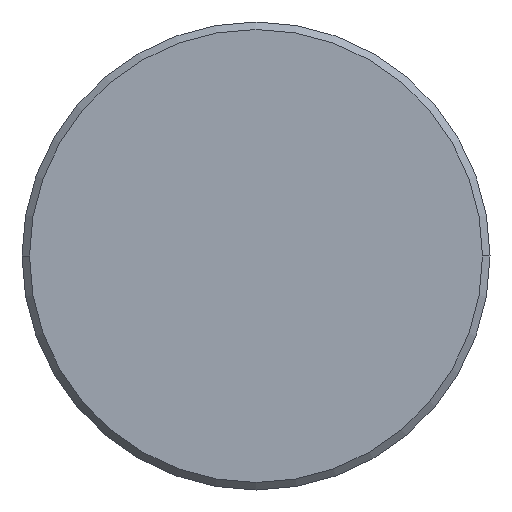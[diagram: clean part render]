
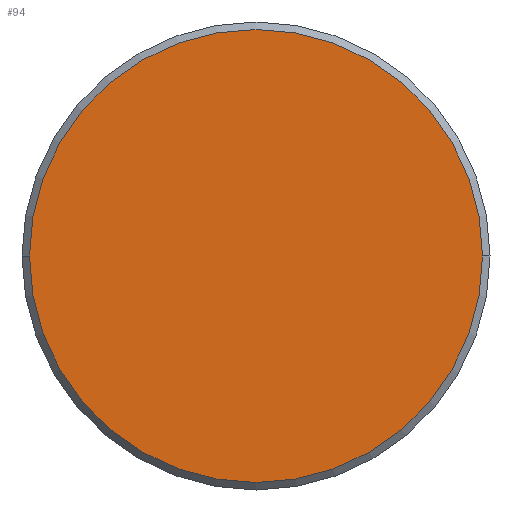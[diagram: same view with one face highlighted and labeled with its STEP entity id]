
A CAD part, left-side view. The second image highlights one B-rep face of the part: STEP entity #94.
In plain terms, the highlighted planar face has unit normal (-1, 0, 0).
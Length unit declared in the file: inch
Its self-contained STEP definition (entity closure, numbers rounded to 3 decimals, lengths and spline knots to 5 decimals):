
#8 = EDGE_CURVE ( 'NONE', #137, #107, #302, .T. ) ;
#43 = DIRECTION ( 'NONE',  ( 0., -1., 0. ) ) ;
#52 = DIRECTION ( 'NONE',  ( 0., -1., 0. ) ) ;
#94 = ADVANCED_FACE ( 'NONE', ( #104 ), #318, .T. ) ;
#96 = AXIS2_PLACEMENT_3D ( 'NONE', #114, #267, #52 ) ;
#104 = FACE_OUTER_BOUND ( 'NONE', #130, .T. ) ;
#107 = VERTEX_POINT ( 'NONE', #263 ) ;
#109 = CARTESIAN_POINT ( 'NONE',  ( 0., 0., 0. ) ) ;
#114 = CARTESIAN_POINT ( 'NONE',  ( 0., 0., 0. ) ) ;
#130 = EDGE_LOOP ( 'NONE', ( #337, #257 ) ) ;
#132 = DIRECTION ( 'NONE',  ( -1., 0., 0. ) ) ;
#137 = VERTEX_POINT ( 'NONE', #373 ) ;
#152 = EDGE_CURVE ( 'NONE', #107, #137, #163, .T. ) ;
#163 = CIRCLE ( 'NONE', #201, 0.121 ) ;
#201 = AXIS2_PLACEMENT_3D ( 'NONE', #109, #374, #214 ) ;
#214 = DIRECTION ( 'NONE',  ( 0., -1., 0. ) ) ;
#257 = ORIENTED_EDGE ( 'NONE', *, *, #8, .T. ) ;
#263 = CARTESIAN_POINT ( 'NONE',  ( 0., 0.121, 0. ) ) ;
#267 = DIRECTION ( 'NONE',  ( -1., 0., 0. ) ) ;
#291 = AXIS2_PLACEMENT_3D ( 'NONE', #316, #132, #43 ) ;
#302 = CIRCLE ( 'NONE', #291, 0.121 ) ;
#316 = CARTESIAN_POINT ( 'NONE',  ( 0., 0., 0. ) ) ;
#318 = PLANE ( 'NONE',  #96 ) ;
#337 = ORIENTED_EDGE ( 'NONE', *, *, #152, .T. ) ;
#373 = CARTESIAN_POINT ( 'NONE',  ( 0., -0.121, 0. ) ) ;
#374 = DIRECTION ( 'NONE',  ( -1., 0., 0. ) ) ;
